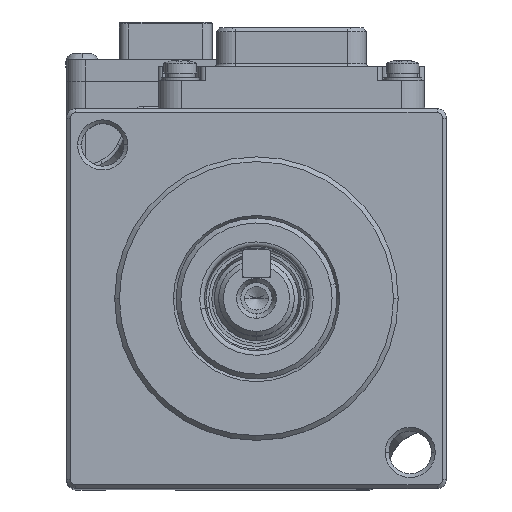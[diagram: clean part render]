
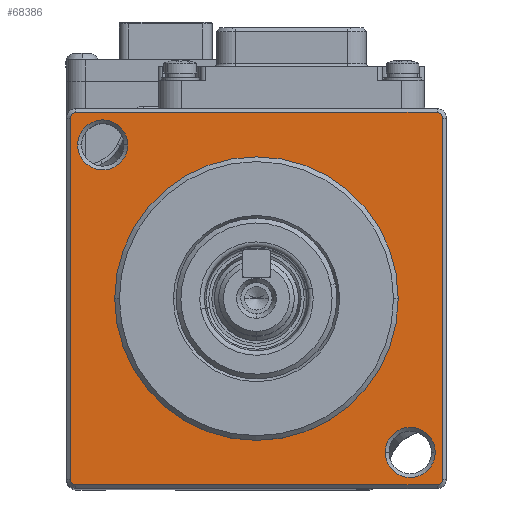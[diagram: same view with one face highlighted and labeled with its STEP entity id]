
A CAD part, top view. The second image highlights one B-rep face of the part: STEP entity #68386.
In plain terms, the highlighted planar face has unit normal (0, 0, 1).
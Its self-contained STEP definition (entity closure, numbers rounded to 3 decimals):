
#1137 = EDGE_CURVE ( 'NONE', #11476, #79013, #95799, .T. ) ;
#1231 = DIRECTION ( 'NONE',  ( 0., 0., -1. ) ) ;
#1333 = FACE_BOUND ( 'NONE', #95782, .T. ) ;
#1358 = ORIENTED_EDGE ( 'NONE', *, *, #11306, .F. ) ;
#1681 = DIRECTION ( 'NONE',  ( -1., 0., 0. ) ) ;
#2294 = AXIS2_PLACEMENT_3D ( 'NONE', #26426, #58613, #34864 ) ;
#2922 = VECTOR ( 'NONE', #13399, 1000. ) ;
#3714 = CARTESIAN_POINT ( 'NONE',  ( 19.1, -19.7, -57.337 ) ) ;
#3991 = DIRECTION ( 'NONE',  ( -1., 0., 0. ) ) ;
#4859 = AXIS2_PLACEMENT_3D ( 'NONE', #50194, #9565, #41738 ) ;
#5460 = ORIENTED_EDGE ( 'NONE', *, *, #26403, .F. ) ;
#7986 = CIRCLE ( 'NONE', #45030, 2.65 ) ;
#9557 = DIRECTION ( 'NONE',  ( 0., 0., 1. ) ) ;
#9565 = DIRECTION ( 'NONE',  ( 0., 0., -1. ) ) ;
#9925 = EDGE_CURVE ( 'NONE', #41333, #55147, #68748, .T. ) ;
#11306 = EDGE_CURVE ( 'NONE', #81281, #41333, #25406, .T. ) ;
#11476 = VERTEX_POINT ( 'NONE', #27971 ) ;
#11482 = EDGE_CURVE ( 'NONE', #62655, #54939, #7986, .T. ) ;
#11996 = ORIENTED_EDGE ( 'NONE', *, *, #75480, .F. ) ;
#12623 = VERTEX_POINT ( 'NONE', #103227 ) ;
#12765 = VERTEX_POINT ( 'NONE', #34114 ) ;
#12999 = AXIS2_PLACEMENT_3D ( 'NONE', #21312, #85661, #79300 ) ;
#13399 = DIRECTION ( 'NONE',  ( -1., 0., 0. ) ) ;
#15332 = CARTESIAN_POINT ( 'NONE',  ( 13.613, -16.263, -57.337 ) ) ;
#15791 = CARTESIAN_POINT ( 'NONE',  ( 0., 19.7, -57.337 ) ) ;
#16549 = VERTEX_POINT ( 'NONE', #103089 ) ;
#16577 = ORIENTED_EDGE ( 'NONE', *, *, #102174, .F. ) ;
#17054 = VECTOR ( 'NONE', #69152, 1000. ) ;
#17057 = DIRECTION ( 'NONE',  ( -1., 0., 0. ) ) ;
#17582 = ORIENTED_EDGE ( 'NONE', *, *, #1137, .F. ) ;
#18252 = CARTESIAN_POINT ( 'NONE',  ( -18.913, 16.263, -57.337 ) ) ;
#18452 = AXIS2_PLACEMENT_3D ( 'NONE', #71467, #103608, #88323 ) ;
#19991 = CIRCLE ( 'NONE', #77311, 0.6 ) ;
#21312 = CARTESIAN_POINT ( 'NONE',  ( 0., 0., -57.337 ) ) ;
#24535 = DIRECTION ( 'NONE',  ( 0., 0., 1. ) ) ;
#25070 = FACE_OUTER_BOUND ( 'NONE', #103864, .T. ) ;
#25406 = LINE ( 'NONE', #41197, #76942 ) ;
#26403 = EDGE_CURVE ( 'NONE', #79013, #12623, #27655, .T. ) ;
#26426 = CARTESIAN_POINT ( 'NONE',  ( 16.263, -16.263, -57.337 ) ) ;
#26547 = EDGE_CURVE ( 'NONE', #54939, #62655, #29934, .T. ) ;
#27655 = LINE ( 'NONE', #37638, #2922 ) ;
#27805 = EDGE_CURVE ( 'NONE', #93809, #16549, #19991, .T. ) ;
#27856 = CARTESIAN_POINT ( 'NONE',  ( 19.1, 19.7, -57.337 ) ) ;
#27971 = CARTESIAN_POINT ( 'NONE',  ( 19.7, -19.1, -57.337 ) ) ;
#28236 = CARTESIAN_POINT ( 'NONE',  ( -19.1, 19.7, -57.337 ) ) ;
#28776 = DIRECTION ( 'NONE',  ( 0., 0., 1. ) ) ;
#29243 = CIRCLE ( 'NONE', #2294, 2.65 ) ;
#29366 = DIRECTION ( 'NONE',  ( 0., 0., 1. ) ) ;
#29640 = DIRECTION ( 'NONE',  ( 0., 0., -1. ) ) ;
#29934 = CIRCLE ( 'NONE', #56910, 2.65 ) ;
#30353 = CARTESIAN_POINT ( 'NONE',  ( -19.7, -19.1, -57.337 ) ) ;
#30762 = ORIENTED_EDGE ( 'NONE', *, *, #36623, .F. ) ;
#31630 = EDGE_CURVE ( 'NONE', #87804, #68569, #29243, .T. ) ;
#32461 = FACE_BOUND ( 'NONE', #90997, .T. ) ;
#34100 = CIRCLE ( 'NONE', #61063, 2.65 ) ;
#34114 = CARTESIAN_POINT ( 'NONE',  ( -15., 0., -57.337 ) ) ;
#34724 = ORIENTED_EDGE ( 'NONE', *, *, #27805, .F. ) ;
#34864 = DIRECTION ( 'NONE',  ( -1., 0., 0. ) ) ;
#35047 = CARTESIAN_POINT ( 'NONE',  ( 18.913, -16.263, -57.337 ) ) ;
#36516 = CARTESIAN_POINT ( 'NONE',  ( -19.1, 19.1, -57.337 ) ) ;
#36623 = EDGE_CURVE ( 'NONE', #81696, #12765, #51780, .T. ) ;
#36948 = CARTESIAN_POINT ( 'NONE',  ( -13.613, 16.263, -57.337 ) ) ;
#37638 = CARTESIAN_POINT ( 'NONE',  ( 0., -19.7, -57.337 ) ) ;
#37911 = EDGE_CURVE ( 'NONE', #12765, #81696, #103924, .T. ) ;
#39709 = DIRECTION ( 'NONE',  ( -1., 0., 0. ) ) ;
#41197 = CARTESIAN_POINT ( 'NONE',  ( -19.7, -15.5, -57.337 ) ) ;
#41333 = VERTEX_POINT ( 'NONE', #96707 ) ;
#41436 = ORIENTED_EDGE ( 'NONE', *, *, #26547, .F. ) ;
#41738 = DIRECTION ( 'NONE',  ( -1., 0., 0. ) ) ;
#45030 = AXIS2_PLACEMENT_3D ( 'NONE', #66515, #9557, #1681 ) ;
#47653 = CARTESIAN_POINT ( 'NONE',  ( -16.263, 16.263, -57.337 ) ) ;
#47763 = DIRECTION ( 'NONE',  ( 1., 0., 0. ) ) ;
#49020 = DIRECTION ( 'NONE',  ( 1., 0., 0. ) ) ;
#49318 = PLANE ( 'NONE',  #96168 ) ;
#50194 = CARTESIAN_POINT ( 'NONE',  ( 19.1, -19.1, -57.337 ) ) ;
#51231 = CARTESIAN_POINT ( 'NONE',  ( 19.7, -15.5, -57.337 ) ) ;
#51780 = CIRCLE ( 'NONE', #12999, 15. ) ;
#54939 = VERTEX_POINT ( 'NONE', #18252 ) ;
#55147 = VERTEX_POINT ( 'NONE', #28236 ) ;
#56375 = EDGE_CURVE ( 'NONE', #68569, #87804, #34100, .T. ) ;
#56910 = AXIS2_PLACEMENT_3D ( 'NONE', #47653, #86680, #39709 ) ;
#57054 = ORIENTED_EDGE ( 'NONE', *, *, #67382, .F. ) ;
#58476 = AXIS2_PLACEMENT_3D ( 'NONE', #100039, #29366, #60518 ) ;
#58613 = DIRECTION ( 'NONE',  ( 0., 0., 1. ) ) ;
#59101 = ORIENTED_EDGE ( 'NONE', *, *, #31630, .F. ) ;
#60274 = DIRECTION ( 'NONE',  ( -1., 0., 0. ) ) ;
#60518 = DIRECTION ( 'NONE',  ( -1., 0., 0. ) ) ;
#61063 = AXIS2_PLACEMENT_3D ( 'NONE', #69381, #28776, #3991 ) ;
#62655 = VERTEX_POINT ( 'NONE', #36948 ) ;
#62786 = ORIENTED_EDGE ( 'NONE', *, *, #11482, .F. ) ;
#63967 = CARTESIAN_POINT ( 'NONE',  ( 15., 0., -57.337 ) ) ;
#66378 = EDGE_LOOP ( 'NONE', ( #30762, #68218 ) ) ;
#66515 = CARTESIAN_POINT ( 'NONE',  ( -16.263, 16.263, -57.337 ) ) ;
#67382 = EDGE_CURVE ( 'NONE', #16549, #11476, #68625, .T. ) ;
#68218 = ORIENTED_EDGE ( 'NONE', *, *, #37911, .F. ) ;
#68386 = ADVANCED_FACE ( 'NONE', ( #25070, #88352, #1333, #32461 ), #49318, .T. ) ;
#68569 = VERTEX_POINT ( 'NONE', #35047 ) ;
#68625 = LINE ( 'NONE', #51231, #17054 ) ;
#68748 = CIRCLE ( 'NONE', #100720, 0.6 ) ;
#69152 = DIRECTION ( 'NONE',  ( 0., -1., 0. ) ) ;
#69381 = CARTESIAN_POINT ( 'NONE',  ( 16.263, -16.263, -57.337 ) ) ;
#71467 = CARTESIAN_POINT ( 'NONE',  ( -19.1, -19.1, -57.337 ) ) ;
#71497 = VECTOR ( 'NONE', #49020, 1000. ) ;
#73644 = ORIENTED_EDGE ( 'NONE', *, *, #56375, .F. ) ;
#75480 = EDGE_CURVE ( 'NONE', #12623, #81281, #92523, .T. ) ;
#76942 = VECTOR ( 'NONE', #103461, 1000. ) ;
#77311 = AXIS2_PLACEMENT_3D ( 'NONE', #89823, #1231, #17057 ) ;
#79013 = VERTEX_POINT ( 'NONE', #3714 ) ;
#79300 = DIRECTION ( 'NONE',  ( -1., 0., 0. ) ) ;
#81281 = VERTEX_POINT ( 'NONE', #30353 ) ;
#81696 = VERTEX_POINT ( 'NONE', #63967 ) ;
#85661 = DIRECTION ( 'NONE',  ( 0., 0., 1. ) ) ;
#86680 = DIRECTION ( 'NONE',  ( 0., 0., 1. ) ) ;
#87324 = ORIENTED_EDGE ( 'NONE', *, *, #9925, .F. ) ;
#87543 = LINE ( 'NONE', #15791, #71497 ) ;
#87804 = VERTEX_POINT ( 'NONE', #15332 ) ;
#88323 = DIRECTION ( 'NONE',  ( -1., 0., 0. ) ) ;
#88352 = FACE_BOUND ( 'NONE', #66378, .T. ) ;
#89823 = CARTESIAN_POINT ( 'NONE',  ( 19.1, 19.1, -57.337 ) ) ;
#90997 = EDGE_LOOP ( 'NONE', ( #59101, #73644 ) ) ;
#92523 = CIRCLE ( 'NONE', #18452, 0.6 ) ;
#93809 = VERTEX_POINT ( 'NONE', #27856 ) ;
#95782 = EDGE_LOOP ( 'NONE', ( #41436, #62786 ) ) ;
#95799 = CIRCLE ( 'NONE', #4859, 0.6 ) ;
#96168 = AXIS2_PLACEMENT_3D ( 'NONE', #96261, #24535, #47763 ) ;
#96261 = CARTESIAN_POINT ( 'NONE',  ( 0., -15., -57.337 ) ) ;
#96707 = CARTESIAN_POINT ( 'NONE',  ( -19.7, 19.1, -57.337 ) ) ;
#100039 = CARTESIAN_POINT ( 'NONE',  ( 0., 0., -57.337 ) ) ;
#100720 = AXIS2_PLACEMENT_3D ( 'NONE', #36516, #29640, #60274 ) ;
#102174 = EDGE_CURVE ( 'NONE', #55147, #93809, #87543, .T. ) ;
#103089 = CARTESIAN_POINT ( 'NONE',  ( 19.7, 19.1, -57.337 ) ) ;
#103227 = CARTESIAN_POINT ( 'NONE',  ( -19.1, -19.7, -57.337 ) ) ;
#103461 = DIRECTION ( 'NONE',  ( 0., 1., 0. ) ) ;
#103608 = DIRECTION ( 'NONE',  ( 0., 0., -1. ) ) ;
#103864 = EDGE_LOOP ( 'NONE', ( #34724, #16577, #87324, #1358, #11996, #5460, #17582, #57054 ) ) ;
#103924 = CIRCLE ( 'NONE', #58476, 15. ) ;
